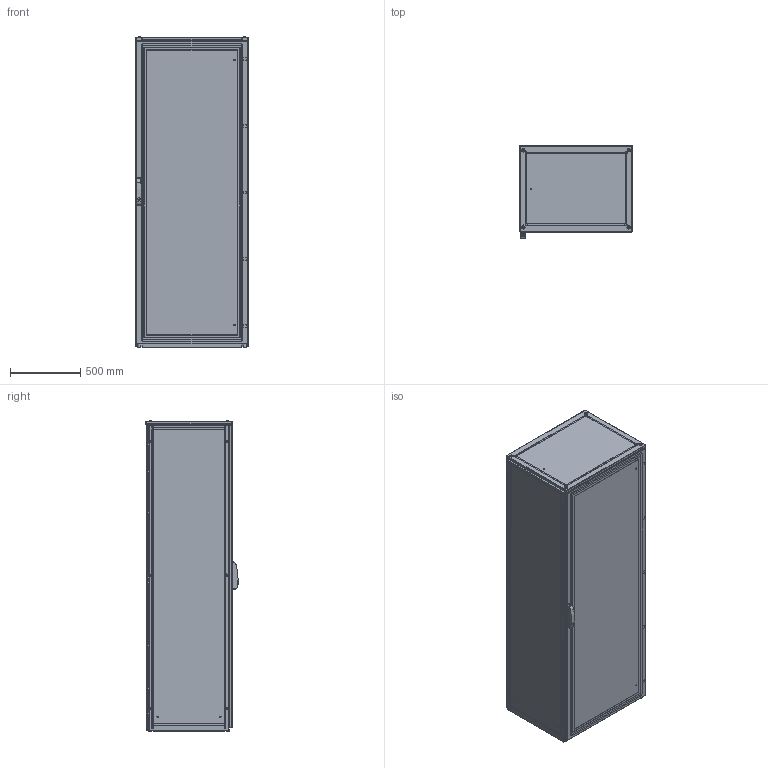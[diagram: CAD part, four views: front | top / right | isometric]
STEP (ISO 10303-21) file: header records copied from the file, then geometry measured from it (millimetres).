
FILE_DESCRIPTION(/* description */ ('STEP AP214'),/* implementation_level */ '2;1');
FILE_NAME(/* name */ 'ENUX082206PR-LOD350',/* time_stamp */ '2025-10-03T13:29:36+02:00',/* author */ ('License CC BY-ND 4.0'),/* organization */ ('CADENAS'),/* preprocessor_version */ 'ST-DEVELOPER v19.3',/* originating_system */ 'PARTsolutions',/* authorisation */ ' ');
FILE_SCHEMA (('AUTOMOTIVE_DESIGN {1 0 10303 214 3 1 1}'));
Length unit declared in the file: millimetre
Products named in the file (10): ENUX082206PR-LOD350; ENUX082206PR-LOD350_CON; ENUX082206PR-LOD350_floor1; ENUX082206PR-LOD350_floor2; Screw M12x30 architecture 350; ENUX082206PR-LOD350_side; ENUX082206PR-LOD350_top; ENUX082206PR-LOD350_back_door; ENUX082206PR-LOD350_door; ENUX082206PR-LOD350_handle
Assembly tree (16 placements, depth 2):
  ENUX082206PR-LOD350
    ENUX082206PR-LOD350_CON
    ENUX082206PR-LOD350_floor1  x2
    ENUX082206PR-LOD350_floor2  x3
    Screw M12x30 architecture 350  x4
    ENUX082206PR-LOD350_side  x2
    ENUX082206PR-LOD350_top
    ENUX082206PR-LOD350_back_door
    ENUX082206PR-LOD350_door
    ENUX082206PR-LOD350_handle
Bounding box: 812 x 657 x 2214.1 mm (x, y, z)
Volume: 23592672.3 mm3; surface area: 20752425.5 mm2
Topology: 16 solids, 16 shells, 1922 faces, 5429 edges, 3544 vertices
Faces by surface type: plane 944, cylinder 803, cone 83, torus 76, sphere 16
Full cylindrical faces by diameter (mm): 4.5 x156, 6 x14, 6.8 x8, 9 x9, 12 x16, 13 x4, 18 x1, 21 x4
Entity records: 51715 total; most frequent: DIRECTION 8961, CARTESIAN_POINT 8937, ORIENTED_EDGE 8400, EDGE_CURVE 4200, AXIS2_PLACEMENT_3D 3210, VERTEX_POINT 2945, LINE 2541, VECTOR 2541
